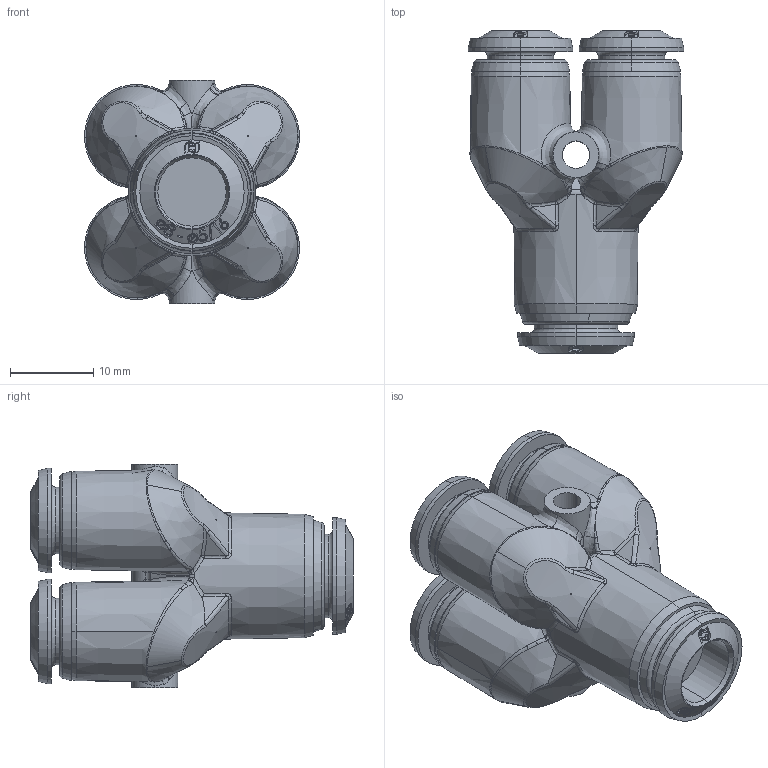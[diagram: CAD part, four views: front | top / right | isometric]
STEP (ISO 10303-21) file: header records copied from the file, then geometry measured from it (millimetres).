
FILE_DESCRIPTION (( 'STEP AP214' ), '1' );
FILE_NAME ('5533000004.step', '2012-10-02T17:47:56', ( '' ), ( '' ), 'SwSTEP 2.0', 'SolidWorks 2012', '' );
FILE_SCHEMA (( 'AUTOMOTIVE_DESIGN' ));
Length unit declared in the file: millimetre
Products named in the file (1): 5533000004
Bounding box: 25.8 x 38.7 x 26.8 mm (x, y, z)
Volume: 10904.8 mm3; surface area: 6233 mm2
Topology: 1 solids, 3 shells, 936 faces, 2434 edges, 1521 vertices
Faces by surface type: bspline 529, cone 182, cylinder 91, plane 70, torus 45, sphere 19
Entity records: 63444 total; most frequent: CARTESIAN_POINT 35192, ORIENTED_EDGE 4758, EDGE_CURVE 2379, DIRECTION 2096, B_SPLINE_CURVE_WITH_KNOTS 1584, VERTEX_POINT 1506, EDGE_LOOP 995, UNCERTAINTY_MEASURE_WITH_UNIT 938
